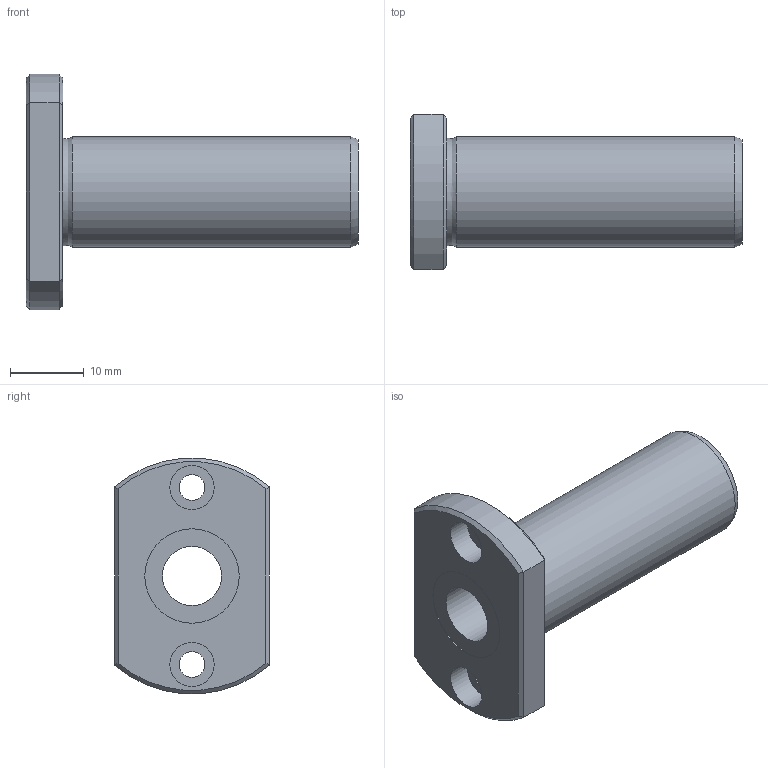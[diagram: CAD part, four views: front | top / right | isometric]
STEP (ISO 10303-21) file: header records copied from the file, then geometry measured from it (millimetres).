
FILE_DESCRIPTION((''),'2;1');
FILE_NAME('D:\製品 (図面)\カタログ用3D\リニアベアリング関連\STEP形式\LFDT\LFDT8.stp','2010-06-03T09:43:37',('Tsuchiya'),(''),'Autodesk Inventor 10','Autodesk Inventor 10','');
FILE_SCHEMA(('AUTOMOTIVE_DESIGN { 1 0 10303 214 1 1 1 1 }'));
Length unit declared in the file: millimetre
Products named in the file (1): LFDT8
Bounding box: 45 x 21 x 31.9 mm (x, y, z)
Volume: 7630.1 mm3; surface area: 4689.4 mm2
Topology: 1 solids, 1 shells, 29 faces, 56 edges, 34 vertices
Faces by surface type: plane 13, cylinder 10, cone 4, torus 1, bspline 1
Full cylindrical faces by diameter (mm): 3.5 x2, 6 x2, 8 x1, 12.8 x2, 15 x1
Entity records: 787 total; most frequent: CARTESIAN_POINT 196, DIRECTION 122, ORIENTED_EDGE 92, AXIS2_PLACEMENT_3D 55, EDGE_LOOP 50, EDGE_CURVE 46, VERTEX_POINT 34, FACE_OUTER_BOUND 29
